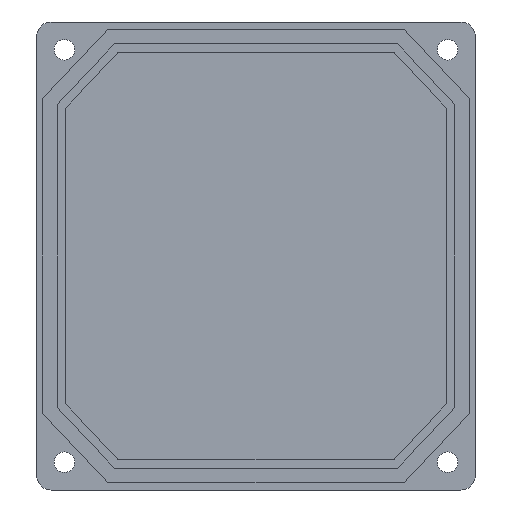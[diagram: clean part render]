
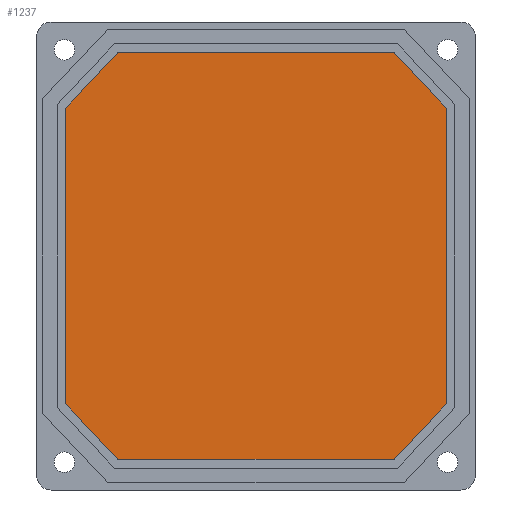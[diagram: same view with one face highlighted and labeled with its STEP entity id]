
A CAD part, front view. The second image highlights one B-rep face of the part: STEP entity #1237.
In plain terms, the highlighted planar face has unit normal (0, -1, 0).
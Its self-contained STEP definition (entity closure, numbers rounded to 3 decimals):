
#48 = CARTESIAN_POINT ( 'NONE',  ( 0., 4., 0. ) ) ;
#52 = EDGE_CURVE ( 'NONE', #519, #1472, #1684, .T. ) ;
#84 = VERTEX_POINT ( 'NONE', #660 ) ;
#89 = EDGE_CURVE ( 'NONE', #204, #519, #869, .T. ) ;
#128 = CARTESIAN_POINT ( 'NONE',  ( -65., 4., -50.586 ) ) ;
#185 = CARTESIAN_POINT ( 'NONE',  ( 59.69, 4., 56.224 ) ) ;
#193 = EDGE_CURVE ( 'NONE', #768, #204, #1707, .T. ) ;
#202 = DIRECTION ( 'NONE',  ( -0.686, 0., 0.728 ) ) ;
#204 = VERTEX_POINT ( 'NONE', #536 ) ;
#222 = EDGE_CURVE ( 'NONE', #1472, #1434, #847, .T. ) ;
#243 = CARTESIAN_POINT ( 'NONE',  ( 65., 4., 50.586 ) ) ;
#299 = DIRECTION ( 'NONE',  ( -0.686, 0., 0.728 ) ) ;
#319 = DIRECTION ( 'NONE',  ( 0., -1., 0. ) ) ;
#350 = CARTESIAN_POINT ( 'NONE',  ( -47.185, 4., 69.5 ) ) ;
#356 = LINE ( 'NONE', #629, #948 ) ;
#380 = CARTESIAN_POINT ( 'NONE',  ( 59.69, 4., -56.224 ) ) ;
#386 = LINE ( 'NONE', #758, #1621 ) ;
#398 = VECTOR ( 'NONE', #299, 1000. ) ;
#404 = EDGE_CURVE ( 'NONE', #1642, #84, #386, .T. ) ;
#464 = DIRECTION ( 'NONE',  ( 0., 0., -1. ) ) ;
#491 = CARTESIAN_POINT ( 'NONE',  ( -47.185, 4., -69.5 ) ) ;
#494 = FACE_OUTER_BOUND ( 'NONE', #645, .T. ) ;
#500 = ORIENTED_EDGE ( 'NONE', *, *, #821, .F. ) ;
#519 = VERTEX_POINT ( 'NONE', #1249 ) ;
#536 = CARTESIAN_POINT ( 'NONE',  ( 47.185, 4., -69.5 ) ) ;
#545 = DIRECTION ( 'NONE',  ( 1., 0., 0. ) ) ;
#608 = PLANE ( 'NONE',  #1307 ) ;
#628 = DIRECTION ( 'NONE',  ( 0., 0., 1. ) ) ;
#629 = CARTESIAN_POINT ( 'NONE',  ( 0., 4., 69.5 ) ) ;
#645 = EDGE_LOOP ( 'NONE', ( #1338, #1098, #1105, #996, #795, #500, #1339, #990 ) ) ;
#660 = CARTESIAN_POINT ( 'NONE',  ( -65., 4., 50.586 ) ) ;
#705 = VERTEX_POINT ( 'NONE', #350 ) ;
#732 = CARTESIAN_POINT ( 'NONE',  ( -59.69, 4., 56.224 ) ) ;
#756 = DIRECTION ( 'NONE',  ( 1., 0., 0. ) ) ;
#758 = CARTESIAN_POINT ( 'NONE',  ( -65., 4., 0. ) ) ;
#768 = VERTEX_POINT ( 'NONE', #491 ) ;
#787 = VECTOR ( 'NONE', #880, 1000. ) ;
#795 = ORIENTED_EDGE ( 'NONE', *, *, #222, .T. ) ;
#821 = EDGE_CURVE ( 'NONE', #705, #1434, #356, .T. ) ;
#847 = LINE ( 'NONE', #185, #398 ) ;
#869 = LINE ( 'NONE', #380, #1274 ) ;
#880 = DIRECTION ( 'NONE',  ( 0., 0., 1. ) ) ;
#894 = CARTESIAN_POINT ( 'NONE',  ( 47.185, 4., 69.5 ) ) ;
#916 = EDGE_CURVE ( 'NONE', #768, #1642, #1754, .T. ) ;
#948 = VECTOR ( 'NONE', #756, 1000. ) ;
#990 = ORIENTED_EDGE ( 'NONE', *, *, #404, .F. ) ;
#996 = ORIENTED_EDGE ( 'NONE', *, *, #52, .T. ) ;
#1029 = CARTESIAN_POINT ( 'NONE',  ( -59.69, 4., -56.224 ) ) ;
#1097 = CARTESIAN_POINT ( 'NONE',  ( 0., 4., -69.5 ) ) ;
#1098 = ORIENTED_EDGE ( 'NONE', *, *, #193, .T. ) ;
#1105 = ORIENTED_EDGE ( 'NONE', *, *, #89, .T. ) ;
#1191 = VECTOR ( 'NONE', #202, 1000. ) ;
#1237 = ADVANCED_FACE ( 'NONE', ( #494 ), #608, .T. ) ;
#1249 = CARTESIAN_POINT ( 'NONE',  ( 65., 4., -50.586 ) ) ;
#1274 = VECTOR ( 'NONE', #1788, 1000. ) ;
#1276 = EDGE_CURVE ( 'NONE', #84, #705, #1698, .T. ) ;
#1292 = DIRECTION ( 'NONE',  ( 0.686, 0., 0.728 ) ) ;
#1307 = AXIS2_PLACEMENT_3D ( 'NONE', #48, #319, #464 ) ;
#1338 = ORIENTED_EDGE ( 'NONE', *, *, #916, .F. ) ;
#1339 = ORIENTED_EDGE ( 'NONE', *, *, #1276, .F. ) ;
#1434 = VERTEX_POINT ( 'NONE', #894 ) ;
#1472 = VERTEX_POINT ( 'NONE', #243 ) ;
#1599 = VECTOR ( 'NONE', #545, 1000. ) ;
#1621 = VECTOR ( 'NONE', #628, 1000. ) ;
#1642 = VERTEX_POINT ( 'NONE', #128 ) ;
#1684 = LINE ( 'NONE', #1730, #787 ) ;
#1698 = LINE ( 'NONE', #732, #1721 ) ;
#1707 = LINE ( 'NONE', #1097, #1599 ) ;
#1721 = VECTOR ( 'NONE', #1292, 1000. ) ;
#1730 = CARTESIAN_POINT ( 'NONE',  ( 65., 4., 0. ) ) ;
#1754 = LINE ( 'NONE', #1029, #1191 ) ;
#1788 = DIRECTION ( 'NONE',  ( 0.686, 0., 0.728 ) ) ;
